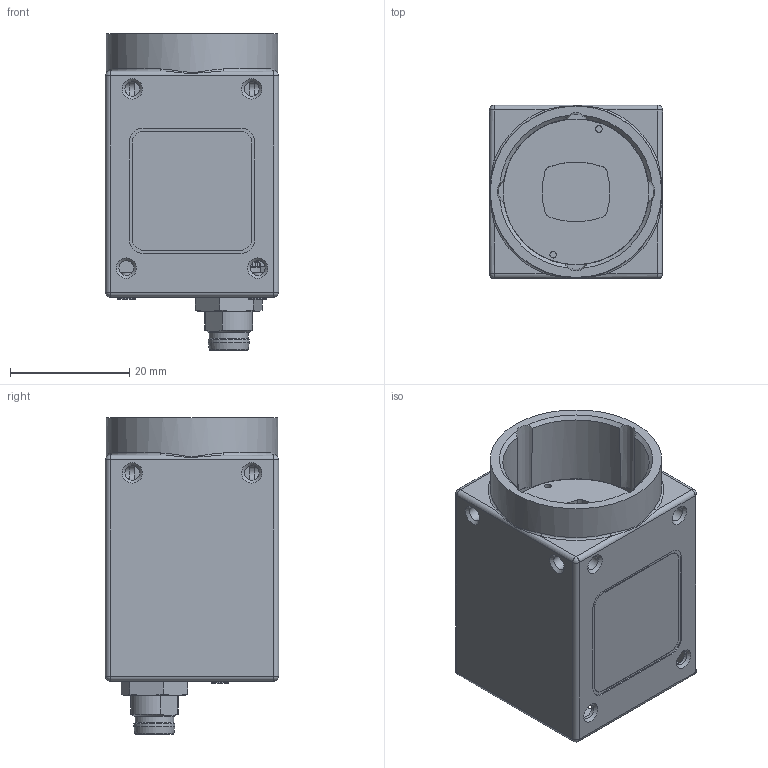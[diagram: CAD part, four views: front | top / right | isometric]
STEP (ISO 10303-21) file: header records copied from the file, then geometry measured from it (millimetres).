
FILE_DESCRIPTION( ( 'Unknown' ), '1' );
FILE_NAME( 'C:/Users/rih/Desktop/11182972_VCXU-15M.stp', 'Unknown', ( 'Unknown' ), ( 'Unknown' ), 'PSStep 19.0.9', 'Unknown', ' ' );
FILE_SCHEMA( ( 'AUTOMOTIVE_DESIGN { 1 0 10303 214 1 1 1 1 }' ) );
Length unit declared in the file: millimetre
Products named in the file (5): 11104603
Bounding box: 29 x 29 x 53 mm (x, y, z)
Volume: 10566.5 mm3; surface area: 15116.6 mm2
Topology: 5 solids, 9 shells, 1568 faces, 4047 edges, 2661 vertices
Faces by surface type: plane 921, cylinder 493, cone 71, torus 27, sphere 24, bspline 24, extrusion 8
Full cylindrical faces by diameter (mm): 0.217 x1, 0.6 x153, 0.7 x1, 0.9 x1, 1.1 x2, 1.4 x4, 1.567 x2, 1.6 x2, 1.9 x4, 2.459 x10, 3 x4, 6.5 x1, 6.9 x1, 8.4 x1, 9 x1, 9.4 x1, 24.4 x1, 26 x1, 28.7 x1
Entity records: 63989 total; most frequent: CARTESIAN_POINT 12071, DIRECTION 7444, ORIENTED_EDGE 7110, EDGE_CURVE 3555, AXIS2_PLACEMENT_3D 2666, VERTEX_POINT 2452, PRESENTATION_STYLE_ASSIGNMENT 2237, COLOUR_RGB 2237
